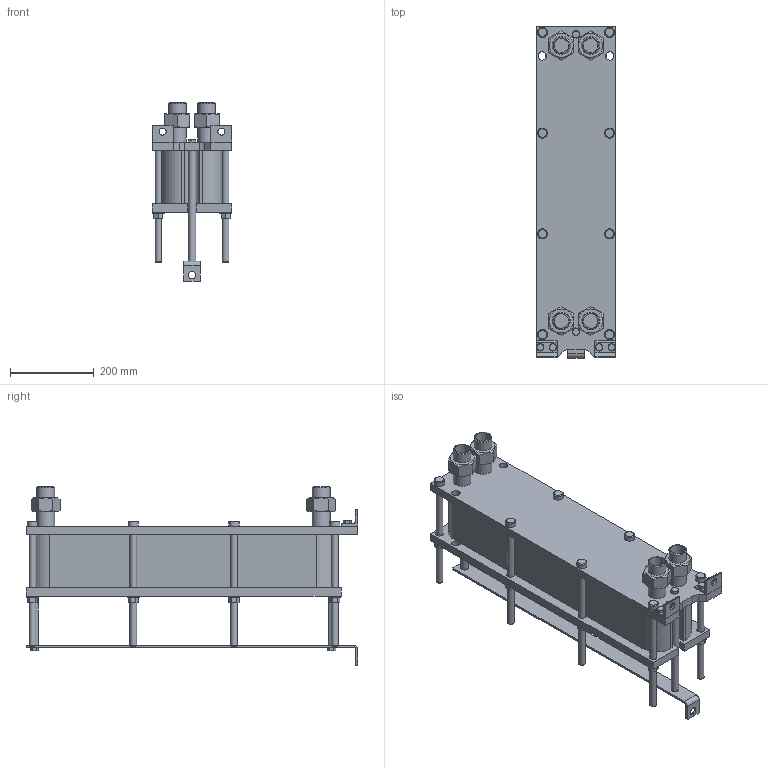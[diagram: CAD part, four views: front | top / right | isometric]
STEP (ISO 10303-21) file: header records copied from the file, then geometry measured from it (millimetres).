
FILE_DESCRIPTION(/* description */ (''),/* implementation_level */ '2;1');
FILE_NAME(/* name */ 'C:\Users\zhuro\Desktop\ENCO\TO\ЭН-008\ЭН-0,5-008-41-1.stp',/* time_stamp */ '2022-06-06T10:48:24+03:00',/* author */ ('zhuro'),/* organization */ (''),/* preprocessor_version */ 'ST-DEVELOPER v18.1',/* originating_system */ 'Autodesk Inventor 2022',/* authorisation */ '');
FILE_SCHEMA (('AUTOMOTIVE_DESIGN { 1 0 10303 214 3 1 1 }'));
Length unit declared in the file: millimetre
Products named in the file (1): ЭН-0,5-008-41-1
Bounding box: 190 x 790 x 425.8 mm (x, y, z)
Volume: 19678376.7 mm3; surface area: 1522453.8 mm2
Topology: 40 solids, 40 shells, 428 faces, 924 edges, 606 vertices
Faces by surface type: plane 273, cylinder 109, cone 40, torus 6
Full cylindrical faces by diameter (mm): 12 x6, 14 x2, 16 x20, 17 x8, 18 x19, 20 x5, 24 x8, 28 x8, 34.3 x8, 42.3 x8
Entity records: 15843 total; most frequent: CARTESIAN_POINT 5991, DIRECTION 1984, ORIENTED_EDGE 1848, EDGE_CURVE 924, AXIS2_PLACEMENT_3D 715, VERTEX_POINT 606, LINE 554, VECTOR 554
